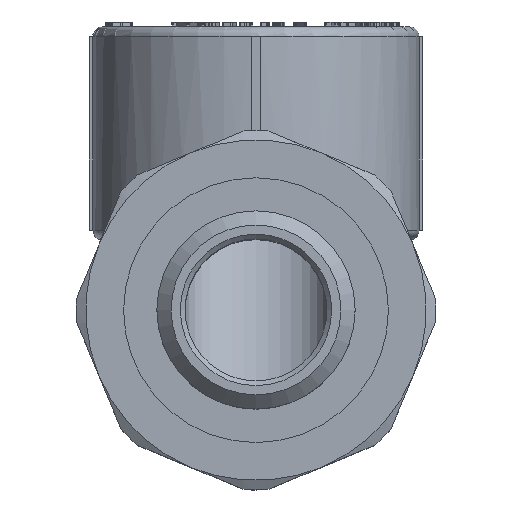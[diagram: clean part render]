
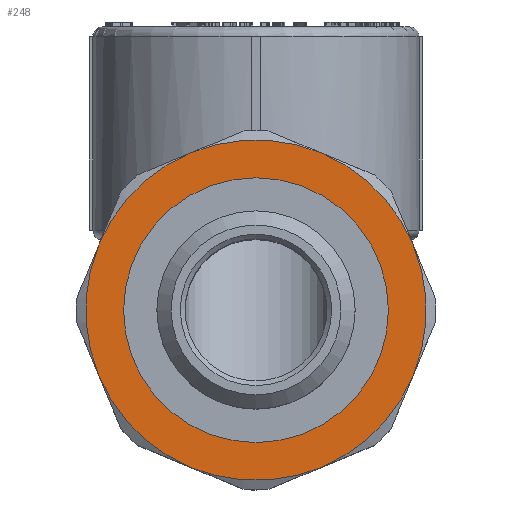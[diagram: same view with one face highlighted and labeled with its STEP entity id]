
A CAD part, top view. The second image highlights one B-rep face of the part: STEP entity #248.
In plain terms, the highlighted planar face has unit normal (0, 0, 1).
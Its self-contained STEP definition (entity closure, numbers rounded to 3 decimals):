
#248=ADVANCED_FACE('',(#987,#989),#991,.T.);
#987=FACE_BOUND('',#988,.T.);
#988=EDGE_LOOP('',(#6085,#6086,#6087,#6088,#6089,#6090,#6091,#6092));
#989=FACE_BOUND('',#990,.T.);
#990=EDGE_LOOP('',(#6093));
#991=PLANE('',#992);
#992=AXIS2_PLACEMENT_3D('',#993,#994,#995);
#993=CARTESIAN_POINT('',(0.,0.,34.5));
#994=DIRECTION('',(0.,0.,1.));
#995=DIRECTION('',(-1.,0.,0.));
#6085=ORIENTED_EDGE('',*,*,#10773,.T.);
#6086=ORIENTED_EDGE('',*,*,#10774,.T.);
#6087=ORIENTED_EDGE('',*,*,#10775,.T.);
#6088=ORIENTED_EDGE('',*,*,#10776,.T.);
#6089=ORIENTED_EDGE('',*,*,#10777,.T.);
#6090=ORIENTED_EDGE('',*,*,#10778,.T.);
#6091=ORIENTED_EDGE('',*,*,#10779,.T.);
#6092=ORIENTED_EDGE('',*,*,#10780,.T.);
#6093=ORIENTED_EDGE('',*,*,#10781,.T.);
#10773=EDGE_CURVE('',#12637,#12638,#12639,.F.);
#10774=EDGE_CURVE('',#12638,#12640,#12641,.F.);
#10775=EDGE_CURVE('',#12640,#12642,#12643,.F.);
#10776=EDGE_CURVE('',#12642,#12644,#12645,.F.);
#10777=EDGE_CURVE('',#12644,#12646,#12647,.F.);
#10778=EDGE_CURVE('',#12646,#12648,#12649,.F.);
#10779=EDGE_CURVE('',#12648,#12650,#12651,.F.);
#10780=EDGE_CURVE('',#12650,#12637,#12652,.F.);
#10781=EDGE_CURVE('',#12653,#12653,#12654,.T.);
#12637=VERTEX_POINT('',#15746);
#12638=VERTEX_POINT('',#15747);
#12639=CIRCLE('',#15748,18.);
#12640=VERTEX_POINT('',#15752);
#12641=CIRCLE('',#15753,18.);
#12642=VERTEX_POINT('',#15757);
#12643=CIRCLE('',#15758,18.);
#12644=VERTEX_POINT('',#15762);
#12645=CIRCLE('',#15763,18.);
#12646=VERTEX_POINT('',#15767);
#12647=CIRCLE('',#15768,18.);
#12648=VERTEX_POINT('',#15772);
#12649=CIRCLE('',#15773,18.);
#12650=VERTEX_POINT('',#15777);
#12651=CIRCLE('',#15778,18.);
#12652=CIRCLE('',#15782,18.);
#12653=VERTEX_POINT('',#15786);
#12654=CIRCLE('',#15787,14.);
#15746=CARTESIAN_POINT('',(6.888,16.63,34.5));
#15747=CARTESIAN_POINT('',(-6.888,16.63,34.5));
#15748=AXIS2_PLACEMENT_3D('',#15749,#15750,#15751);
#15749=CARTESIAN_POINT('',(0.,0.,34.5));
#15750=DIRECTION('',(0.,0.,-1.));
#15751=DIRECTION('',(-0.383,0.924,0.));
#15752=CARTESIAN_POINT('',(-16.63,6.888,34.5));
#15753=AXIS2_PLACEMENT_3D('',#15754,#15755,#15756);
#15754=CARTESIAN_POINT('',(0.,0.,34.5));
#15755=DIRECTION('',(0.,0.,-1.));
#15756=DIRECTION('',(-0.924,0.383,0.));
#15757=CARTESIAN_POINT('',(-16.63,-6.888,34.5));
#15758=AXIS2_PLACEMENT_3D('',#15759,#15760,#15761);
#15759=CARTESIAN_POINT('',(0.,0.,34.5));
#15760=DIRECTION('',(0.,0.,-1.));
#15761=DIRECTION('',(-0.924,-0.383,0.));
#15762=CARTESIAN_POINT('',(-6.888,-16.63,34.5));
#15763=AXIS2_PLACEMENT_3D('',#15764,#15765,#15766);
#15764=CARTESIAN_POINT('',(0.,0.,34.5));
#15765=DIRECTION('',(0.,0.,-1.));
#15766=DIRECTION('',(-0.383,-0.924,0.));
#15767=CARTESIAN_POINT('',(6.888,-16.63,34.5));
#15768=AXIS2_PLACEMENT_3D('',#15769,#15770,#15771);
#15769=CARTESIAN_POINT('',(0.,0.,34.5));
#15770=DIRECTION('',(0.,0.,-1.));
#15771=DIRECTION('',(0.383,-0.924,0.));
#15772=CARTESIAN_POINT('',(16.63,-6.888,34.5));
#15773=AXIS2_PLACEMENT_3D('',#15774,#15775,#15776);
#15774=CARTESIAN_POINT('',(0.,0.,34.5));
#15775=DIRECTION('',(0.,0.,-1.));
#15776=DIRECTION('',(0.924,-0.383,0.));
#15777=CARTESIAN_POINT('',(16.63,6.888,34.5));
#15778=AXIS2_PLACEMENT_3D('',#15779,#15780,#15781);
#15779=CARTESIAN_POINT('',(0.,0.,34.5));
#15780=DIRECTION('',(0.,0.,-1.));
#15781=DIRECTION('',(0.924,0.383,0.));
#15782=AXIS2_PLACEMENT_3D('',#15783,#15784,#15785);
#15783=CARTESIAN_POINT('',(0.,0.,34.5));
#15784=DIRECTION('',(0.,0.,-1.));
#15785=DIRECTION('',(0.383,0.924,0.));
#15786=CARTESIAN_POINT('',(14.,0.,34.5));
#15787=AXIS2_PLACEMENT_3D('',#15788,#15789,#15790);
#15788=CARTESIAN_POINT('',(0.,0.,34.5));
#15789=DIRECTION('',(0.,0.,-1.));
#15790=DIRECTION('',(1.,0.,0.));
